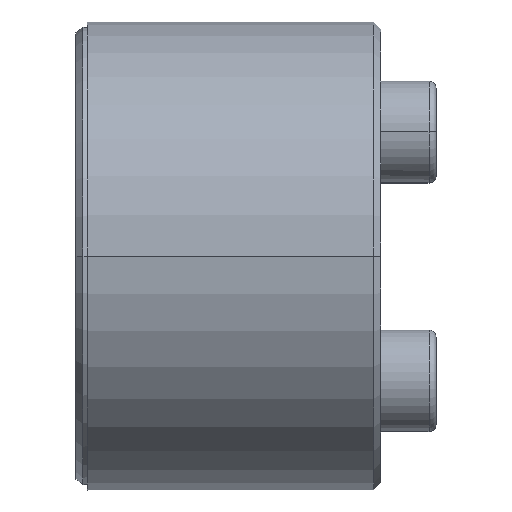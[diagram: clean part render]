
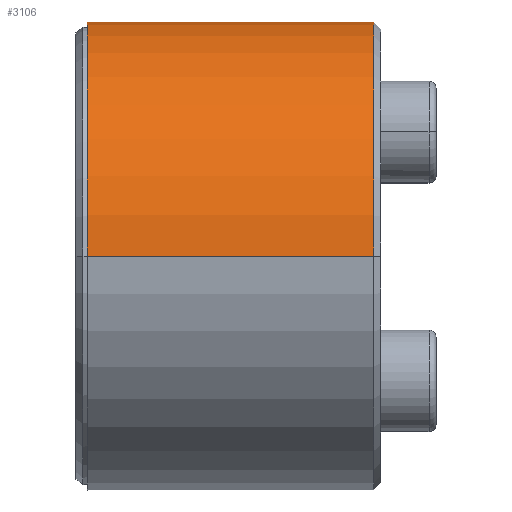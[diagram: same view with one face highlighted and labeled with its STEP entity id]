
A CAD part, top view. The second image highlights one B-rep face of the part: STEP entity #3106.
In plain terms, the highlighted cylindrical face has radius 10 mm (diameter 20 mm), a partial arc.
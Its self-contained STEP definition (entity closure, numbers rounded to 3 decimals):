
#43 = CARTESIAN_POINT ( 'NONE',  ( 0.491, 0., 10. ) ) ;
#75 = ORIENTED_EDGE ( 'NONE', *, *, #2100, .F. ) ;
#87 = LINE ( 'NONE', #43, #2045 ) ;
#223 = AXIS2_PLACEMENT_3D ( 'NONE', #3758, #4383, #631 ) ;
#358 = AXIS2_PLACEMENT_3D ( 'NONE', #3630, #1546, #2914 ) ;
#497 = CARTESIAN_POINT ( 'NONE',  ( 0.491, 0., -10. ) ) ;
#600 = EDGE_CURVE ( 'NONE', #4165, #3882, #1967, .T. ) ;
#631 = DIRECTION ( 'NONE',  ( 0., -0.995, 0.1 ) ) ;
#633 = DIRECTION ( 'NONE',  ( 0., 0., 1. ) ) ;
#665 = CARTESIAN_POINT ( 'NONE',  ( 0.491, 0., 0. ) ) ;
#676 = EDGE_CURVE ( 'NONE', #1446, #4351, #87, .T. ) ;
#946 = ORIENTED_EDGE ( 'NONE', *, *, #676, .T. ) ;
#1099 = EDGE_CURVE ( 'NONE', #4351, #3882, #4095, .T. ) ;
#1337 = CARTESIAN_POINT ( 'NONE',  ( 0.491, 0., -10. ) ) ;
#1407 = DIRECTION ( 'NONE',  ( 1., 0., 0. ) ) ;
#1446 = VERTEX_POINT ( 'NONE', #3784 ) ;
#1546 = DIRECTION ( 'NONE',  ( -1., 0., 0. ) ) ;
#1872 = ORIENTED_EDGE ( 'NONE', *, *, #1099, .T. ) ;
#1948 = CARTESIAN_POINT ( 'NONE',  ( 12.691, 0., 10. ) ) ;
#1967 = LINE ( 'NONE', #1337, #4286 ) ;
#2045 = VECTOR ( 'NONE', #1407, 1000. ) ;
#2100 = EDGE_CURVE ( 'NONE', #1446, #4165, #4222, .T. ) ;
#2112 = AXIS2_PLACEMENT_3D ( 'NONE', #665, #2708, #633 ) ;
#2374 = FACE_OUTER_BOUND ( 'NONE', #4134, .T. ) ;
#2708 = DIRECTION ( 'NONE',  ( 1., 0., 0. ) ) ;
#2814 = ORIENTED_EDGE ( 'NONE', *, *, #600, .F. ) ;
#2820 = CARTESIAN_POINT ( 'NONE',  ( 12.691, 0., -10. ) ) ;
#2914 = DIRECTION ( 'NONE',  ( 0., -0.995, 0.1 ) ) ;
#3106 = ADVANCED_FACE ( 'NONE', ( #2374 ), #3742, .T. ) ;
#3366 = DIRECTION ( 'NONE',  ( 1., 0., 0. ) ) ;
#3630 = CARTESIAN_POINT ( 'NONE',  ( 0.491, 0., 0. ) ) ;
#3742 = CYLINDRICAL_SURFACE ( 'NONE', #2112, 10. ) ;
#3758 = CARTESIAN_POINT ( 'NONE',  ( 12.691, 0., 0. ) ) ;
#3784 = CARTESIAN_POINT ( 'NONE',  ( 0.491, 0., 10. ) ) ;
#3882 = VERTEX_POINT ( 'NONE', #2820 ) ;
#4095 = CIRCLE ( 'NONE', #223, 10. ) ;
#4134 = EDGE_LOOP ( 'NONE', ( #2814, #75, #946, #1872 ) ) ;
#4165 = VERTEX_POINT ( 'NONE', #497 ) ;
#4222 = CIRCLE ( 'NONE', #358, 10. ) ;
#4286 = VECTOR ( 'NONE', #3366, 1000. ) ;
#4351 = VERTEX_POINT ( 'NONE', #1948 ) ;
#4383 = DIRECTION ( 'NONE',  ( -1., 0., 0. ) ) ;
